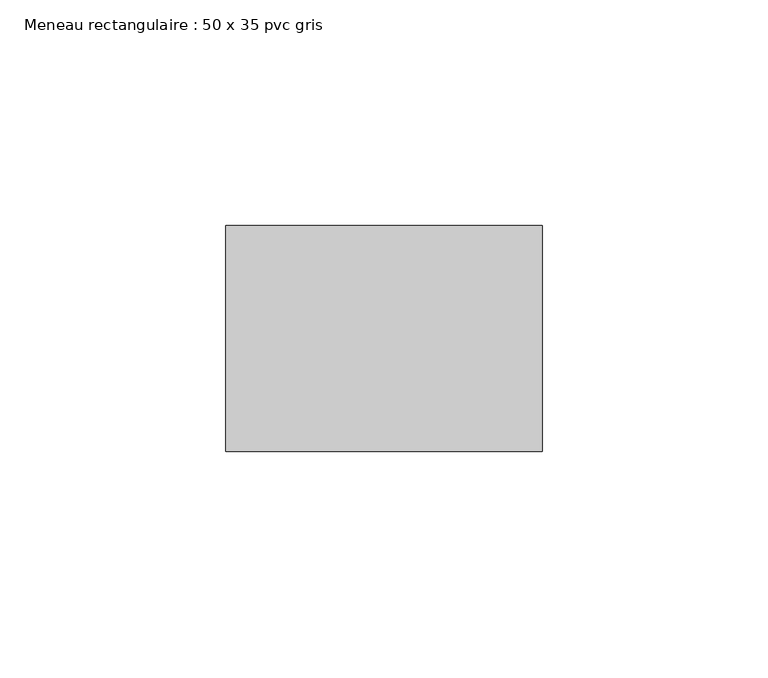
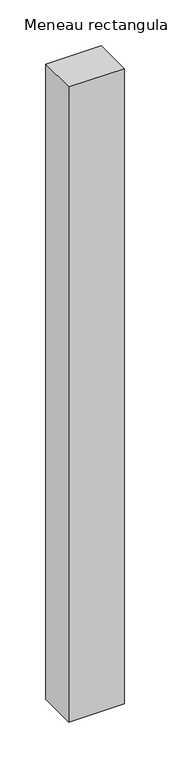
"""IFC4 building model written with IfcOpenShell, lengths in millimetres: member geometry, Meneau rectangulaire : 50 x 35 pvc gris."""

from ifc_helpers import new_model, si_unit, frame, origin, place, context, project, spatial, polyline, outline, extrude, source, transform, mapped, element, save


def meneau_rectangulaire_50_x_35_pvc_gris_b1e0f6df(model_context):
    return source(origin(), model_context, "Body", "SweptSolid", [
        extrude(outline(polyline([(35.0, 0.0), (35.0, -50.0), (-35.0, -50.0), (-35.0, 0.0), (35.0, 0.0)])), frame((0.0, 0.0, -847.0), z_axis=(0.0, 0.0, 1.0), x_axis=(1.0, 0.0, 0.0)), (0.0, 0.0, 1.0), 847.0),
    ])


if __name__ == "__main__":
    model = new_model("IFC4")
    model_context = context("Model", 3, world=origin())
    ifc_project = project(units=[si_unit("LENGTHUNIT", "METRE", prefix="MILLI")], contexts=[model_context])
    site = spatial("IfcSite", under=ifc_project)
    building = spatial("IfcBuilding", under=site)
    placement = place(None, origin())
    meneau_rectangulaire_50_x_35_pvc_gris_shape = meneau_rectangulaire_50_x_35_pvc_gris_b1e0f6df(model_context)
    element("IfcMember", 1, ObjectType="Meneau rectangulaire : 50 x 35 pvc gris", at=placement, inside=building, context=model_context, shape_type="MappedRepresentation", body=[
        mapped(meneau_rectangulaire_50_x_35_pvc_gris_shape, transform((0.0, 0.0, 0.0), x_axis=(1.0, 0.0, 0.0), y_axis=(0.0, 1.0, 0.0), z_axis=(0.0, 0.0, 1.0))),
    ])
    save(model, "model.ifc")
